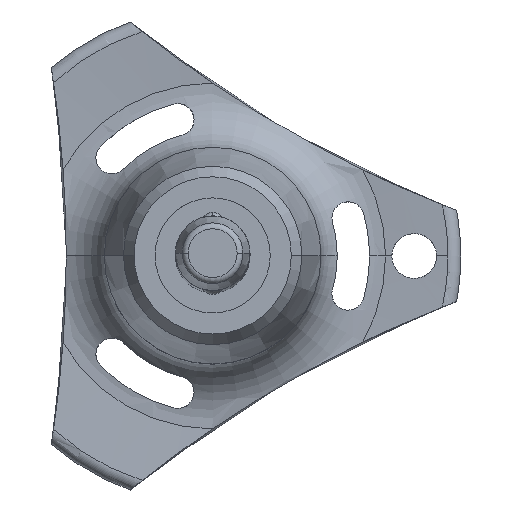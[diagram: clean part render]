
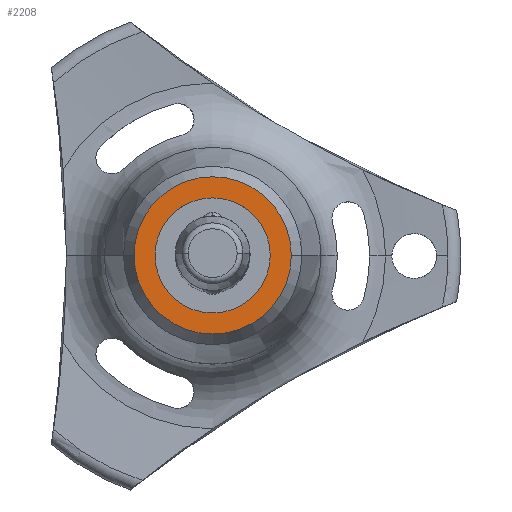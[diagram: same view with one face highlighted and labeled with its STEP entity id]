
A CAD part, top view. The second image highlights one B-rep face of the part: STEP entity #2208.
In plain terms, the highlighted planar face has unit normal (0, 0, 1).
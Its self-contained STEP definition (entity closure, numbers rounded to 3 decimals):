
#20 = DIRECTION ( 'NONE',  ( 0., 0., -1. ) ) ;
#166 = AXIS2_PLACEMENT_3D ( 'NONE', #788, #1093, #842 ) ;
#294 = CARTESIAN_POINT ( 'NONE',  ( -3.852, 0., -80.4 ) ) ;
#303 = DIRECTION ( 'NONE',  ( -1., 0., 0. ) ) ;
#312 = CARTESIAN_POINT ( 'NONE',  ( 0., 0., -80.4 ) ) ;
#413 = EDGE_LOOP ( 'NONE', ( #1167, #1536 ) ) ;
#416 = EDGE_CURVE ( 'NONE', #2349, #2677, #839, .T. ) ;
#471 = CARTESIAN_POINT ( 'NONE',  ( 5.262, 0., -80.4 ) ) ;
#503 = VERTEX_POINT ( 'NONE', #1836 ) ;
#531 = EDGE_CURVE ( 'NONE', #2677, #2349, #893, .T. ) ;
#555 = ORIENTED_EDGE ( 'NONE', *, *, #1719, .F. ) ;
#626 = EDGE_CURVE ( 'NONE', #503, #1325, #1959, .T. ) ;
#652 = CARTESIAN_POINT ( 'NONE',  ( 0., 3.852, -80.4 ) ) ;
#786 = CARTESIAN_POINT ( 'NONE',  ( 3.852, 0., -80.4 ) ) ;
#788 = CARTESIAN_POINT ( 'NONE',  ( 0., 0., -80.4 ) ) ;
#832 = AXIS2_PLACEMENT_3D ( 'NONE', #652, #2201, #878 ) ;
#839 = CIRCLE ( 'NONE', #1420, 3.852 ) ;
#842 = DIRECTION ( 'NONE',  ( -1., 0., 0. ) ) ;
#878 = DIRECTION ( 'NONE',  ( 1., 0., 0. ) ) ;
#893 = CIRCLE ( 'NONE', #2456, 3.852 ) ;
#1002 = ORIENTED_EDGE ( 'NONE', *, *, #626, .F. ) ;
#1004 = CARTESIAN_POINT ( 'NONE',  ( 0., 0., -80.4 ) ) ;
#1093 = DIRECTION ( 'NONE',  ( 0., 0., -1. ) ) ;
#1167 = ORIENTED_EDGE ( 'NONE', *, *, #531, .T. ) ;
#1187 = EDGE_LOOP ( 'NONE', ( #1002, #555 ) ) ;
#1325 = VERTEX_POINT ( 'NONE', #471 ) ;
#1420 = AXIS2_PLACEMENT_3D ( 'NONE', #312, #20, #2649 ) ;
#1435 = CARTESIAN_POINT ( 'NONE',  ( 0., 0., -80.4 ) ) ;
#1536 = ORIENTED_EDGE ( 'NONE', *, *, #416, .T. ) ;
#1649 = DIRECTION ( 'NONE',  ( 0., 0., -1. ) ) ;
#1719 = EDGE_CURVE ( 'NONE', #1325, #503, #2719, .T. ) ;
#1836 = CARTESIAN_POINT ( 'NONE',  ( -5.262, 0., -80.4 ) ) ;
#1872 = AXIS2_PLACEMENT_3D ( 'NONE', #1004, #1649, #2501 ) ;
#1959 = CIRCLE ( 'NONE', #1872, 5.262 ) ;
#1973 = PLANE ( 'NONE',  #832 ) ;
#2201 = DIRECTION ( 'NONE',  ( 0., 0., 1. ) ) ;
#2208 = ADVANCED_FACE ( 'NONE', ( #2214, #2392 ), #1973, .T. ) ;
#2214 = FACE_BOUND ( 'NONE', #413, .T. ) ;
#2349 = VERTEX_POINT ( 'NONE', #786 ) ;
#2392 = FACE_OUTER_BOUND ( 'NONE', #1187, .T. ) ;
#2456 = AXIS2_PLACEMENT_3D ( 'NONE', #1435, #2475, #303 ) ;
#2475 = DIRECTION ( 'NONE',  ( 0., 0., -1. ) ) ;
#2501 = DIRECTION ( 'NONE',  ( -1., 0., 0. ) ) ;
#2649 = DIRECTION ( 'NONE',  ( -1., 0., 0. ) ) ;
#2677 = VERTEX_POINT ( 'NONE', #294 ) ;
#2719 = CIRCLE ( 'NONE', #166, 5.262 ) ;
